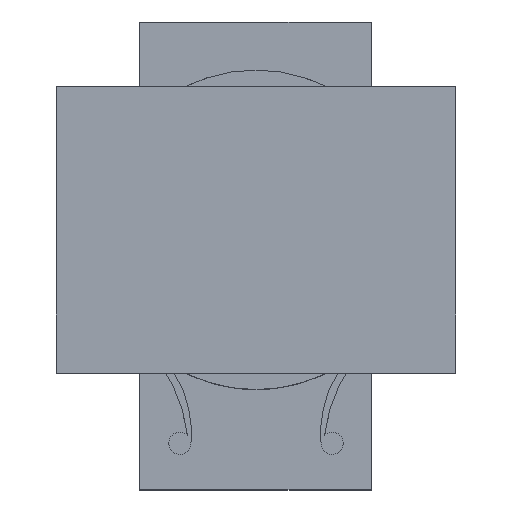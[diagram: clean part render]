
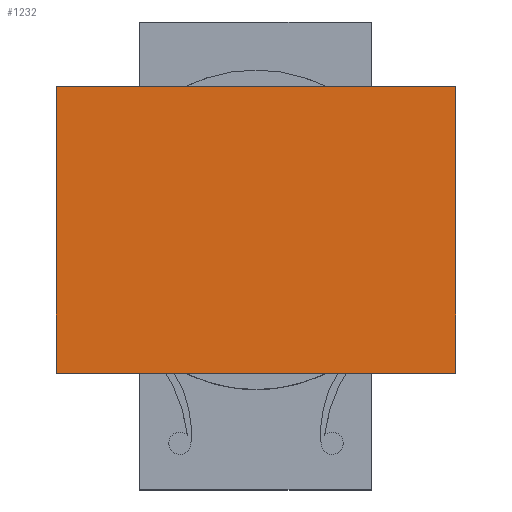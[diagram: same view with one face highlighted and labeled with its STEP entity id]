
A CAD part, top view. The second image highlights one B-rep face of the part: STEP entity #1232.
In plain terms, the highlighted planar face has unit normal (0, 0, 1).
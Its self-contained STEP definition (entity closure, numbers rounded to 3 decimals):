
#675 = VERTEX_POINT('',#676);
#676 = CARTESIAN_POINT('',(13.45,9.65,13.2));
#682 = EDGE_CURVE('',#675,#683,#685,.T.);
#683 = VERTEX_POINT('',#684);
#684 = CARTESIAN_POINT('',(-13.45,9.65,13.2));
#685 = LINE('',#686,#687);
#686 = CARTESIAN_POINT('',(13.45,9.65,13.2));
#687 = VECTOR('',#688,1.);
#688 = DIRECTION('',(-1.,0.,0.));
#713 = VERTEX_POINT('',#714);
#714 = CARTESIAN_POINT('',(13.45,-9.65,13.2));
#720 = EDGE_CURVE('',#713,#675,#721,.T.);
#721 = LINE('',#722,#723);
#722 = CARTESIAN_POINT('',(13.45,-9.65,13.2));
#723 = VECTOR('',#724,1.);
#724 = DIRECTION('',(0.,1.,0.));
#737 = VERTEX_POINT('',#738);
#738 = CARTESIAN_POINT('',(-13.45,-9.65,13.2));
#744 = EDGE_CURVE('',#737,#713,#745,.T.);
#745 = LINE('',#746,#747);
#746 = CARTESIAN_POINT('',(-13.45,-9.65,13.2));
#747 = VECTOR('',#748,1.);
#748 = DIRECTION('',(1.,0.,0.));
#925 = EDGE_CURVE('',#683,#737,#926,.T.);
#926 = LINE('',#927,#928);
#927 = CARTESIAN_POINT('',(-13.45,9.65,13.2));
#928 = VECTOR('',#929,1.);
#929 = DIRECTION('',(0.,-1.,0.));
#1232 = ADVANCED_FACE('',(#1233),#1239,.T.);
#1233 = FACE_BOUND('',#1234,.T.);
#1234 = EDGE_LOOP('',(#1235,#1236,#1237,#1238));
#1235 = ORIENTED_EDGE('',*,*,#744,.T.);
#1236 = ORIENTED_EDGE('',*,*,#720,.T.);
#1237 = ORIENTED_EDGE('',*,*,#682,.T.);
#1238 = ORIENTED_EDGE('',*,*,#925,.T.);
#1239 = PLANE('',#1240);
#1240 = AXIS2_PLACEMENT_3D('',#1241,#1242,#1243);
#1241 = CARTESIAN_POINT('',(0.,0.,13.2));
#1242 = DIRECTION('',(0.,0.,1.));
#1243 = DIRECTION('',(1.,0.,0.));
